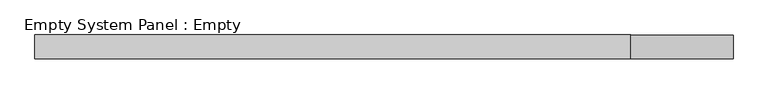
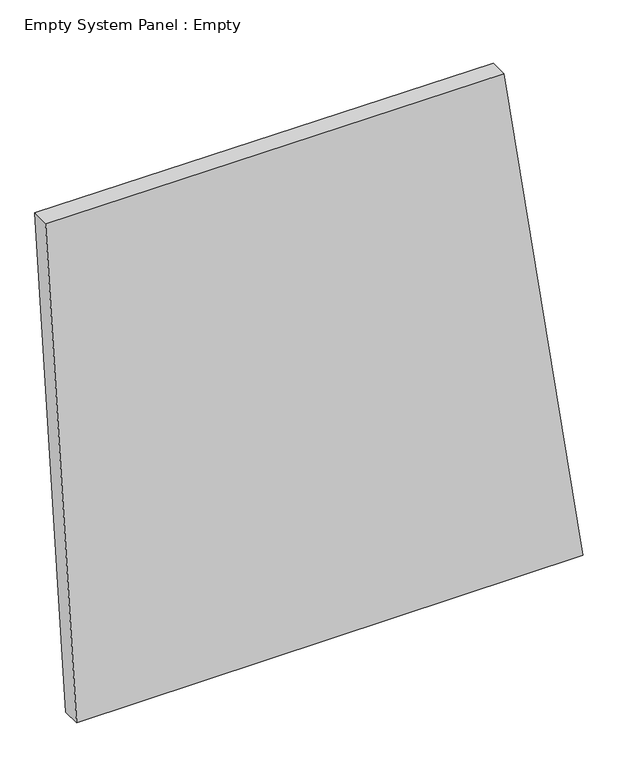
"""IFC4 building model written with IfcOpenShell, lengths in millimetres: plate geometry, Empty System Panel : Empty."""

from ifc_helpers import new_model, si_unit, frame, origin, place, context, project, spatial, polyline, outline, extrude, source, transform, mapped, element, save


def empty_system_panel_empty_6c8ad9f7(model_context):
    return source(origin(), model_context, "Body", "SweptSolid", [
        extrude(outline(polyline([(0.0, -1312.1345596), (0.0, 1483.6768907), (2961.4607861, 1049.0010483), (2973.236371, -1483.6768907), (0.0, -1312.1345596)])), frame((0.0, -50.8, 0.0), z_axis=(0.0, 1.0, 0.0), x_axis=(0.0, 0.0, 1.0)), (0.0, 0.0, 1.0), 101.6),
    ])


if __name__ == "__main__":
    model = new_model("IFC4")
    model_context = context("Model", 3, world=origin())
    ifc_project = project(units=[si_unit("LENGTHUNIT", "METRE", prefix="MILLI")], contexts=[model_context])
    site = spatial("IfcSite", under=ifc_project)
    building = spatial("IfcBuilding", under=site)
    placement = place(None, origin())
    empty_system_panel_empty_shape = empty_system_panel_empty_6c8ad9f7(model_context)
    element("IfcPlate", 1, ObjectType="Empty System Panel : Empty", at=placement, inside=building, context=model_context, shape_type="MappedRepresentation", body=[
        mapped(empty_system_panel_empty_shape, transform((0.0, 0.0, 0.0), x_axis=(1.0, 0.0, 0.0), y_axis=(0.0, 1.0, 0.0), z_axis=(0.0, 0.0, 1.0))),
    ])
    save(model, "model.ifc")
